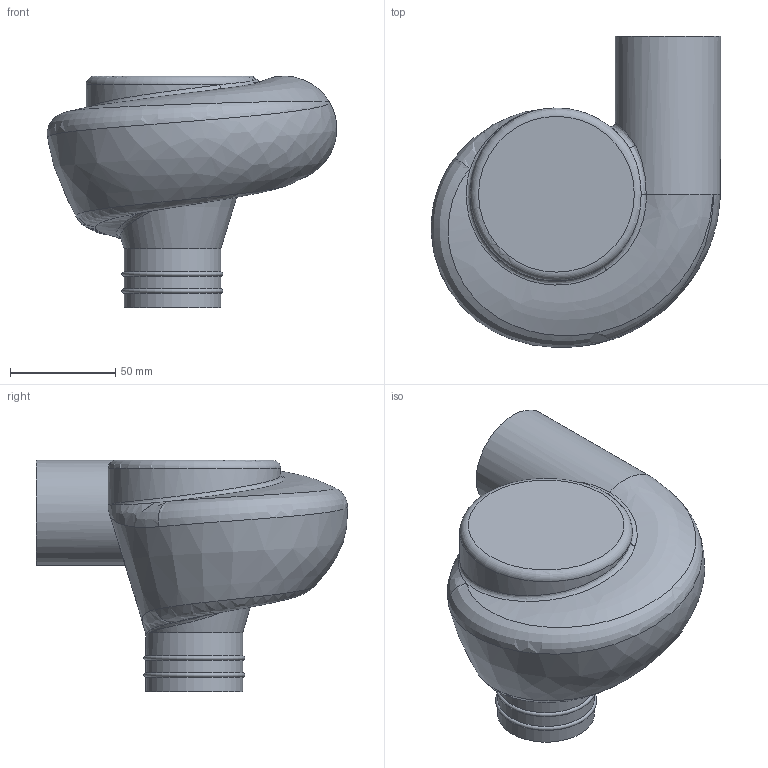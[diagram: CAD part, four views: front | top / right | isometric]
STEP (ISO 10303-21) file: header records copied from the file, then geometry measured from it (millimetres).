
FILE_DESCRIPTION(/* description */ (''),/* implementation_level */ '2;1');
FILE_NAME(/* name */ 'Zyklon II.step',/* time_stamp */ '2025-09-15T21:08:05+02:00',/* author */ (''),/* organization */ (''),/* preprocessor_version */ 'ST-DEVELOPER v20.1',/* originating_system */ 'Autodesk Translation Framework v14.17.0.0',/* authorisation */ '');
FILE_SCHEMA (('AUTOMOTIVE_DESIGN { 1 0 10303 214 3 1 1 }'));
Length unit declared in the file: millimetre
Products named in the file (1): Zyklon II
Bounding box: 137.43 x 147.81 x 110 mm (x, y, z)
Volume: 99025.2 mm3; surface area: 101389.5 mm2
Topology: 3 solids, 3 shells, 46 faces, 176 edges, 129 vertices
Faces by surface type: bspline 26, cylinder 8, torus 6, plane 4, cone 2
Full cylindrical faces by diameter (mm): 42 x1, 46 x4, 50 x1
Entity records: 7446 total; most frequent: CARTESIAN_POINT 6195, ORIENTED_EDGE 346, EDGE_CURVE 173, B_SPLINE_CURVE_WITH_KNOTS 130, VERTEX_POINT 129, DIRECTION 121, AXIS2_PLACEMENT_3D 57, EDGE_LOOP 48
